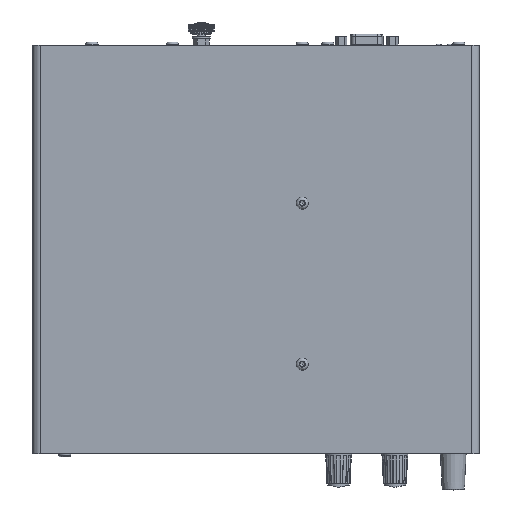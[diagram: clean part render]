
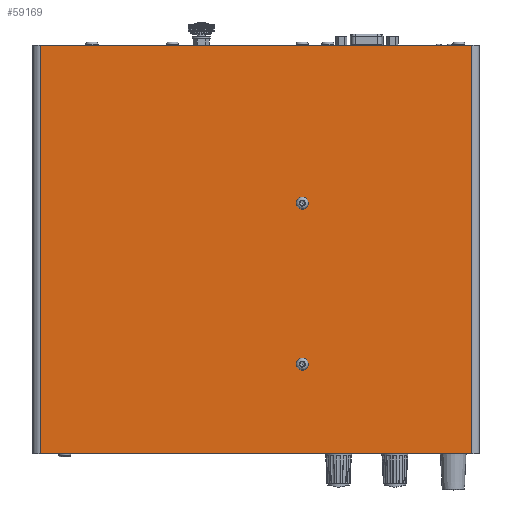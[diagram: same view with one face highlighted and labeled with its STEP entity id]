
A CAD part, top view. The second image highlights one B-rep face of the part: STEP entity #59169.
In plain terms, the highlighted planar face has unit normal (0, 0, 1).
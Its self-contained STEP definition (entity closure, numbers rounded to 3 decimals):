
#2767=FACE_BOUND('',#14330,.T.);
#2768=FACE_BOUND('',#14331,.T.);
#4322=PLANE('',#64133);
#10349=FACE_OUTER_BOUND('',#14329,.T.);
#14329=EDGE_LOOP('',(#51335,#51336,#51337,#51338));
#14330=EDGE_LOOP('',(#51339));
#14331=EDGE_LOOP('',(#51340));
#16988=CIRCLE('',#64134,3.);
#16989=CIRCLE('',#64135,3.);
#21008=LINE('',#101296,#25214);
#21013=LINE('',#101312,#25219);
#21014=LINE('',#101314,#25220);
#21015=LINE('',#101315,#25221);
#25214=VECTOR('',#77118,10.);
#25219=VECTOR('',#77131,10.);
#25220=VECTOR('',#77132,10.);
#25221=VECTOR('',#77133,10.);
#29995=VERTEX_POINT('',#101293);
#29996=VERTEX_POINT('',#101295);
#30003=VERTEX_POINT('',#101311);
#30004=VERTEX_POINT('',#101313);
#30005=VERTEX_POINT('',#101316);
#30006=VERTEX_POINT('',#101318);
#37365=EDGE_CURVE('',#29995,#29996,#21008,.T.);
#37373=EDGE_CURVE('',#30003,#29996,#21013,.T.);
#37374=EDGE_CURVE('',#29995,#30004,#21014,.T.);
#37375=EDGE_CURVE('',#30003,#30004,#21015,.T.);
#37376=EDGE_CURVE('',#30005,#30005,#16988,.T.);
#37377=EDGE_CURVE('',#30006,#30006,#16989,.T.);
#51335=ORIENTED_EDGE('',*,*,#37373,.T.);
#51336=ORIENTED_EDGE('',*,*,#37365,.F.);
#51337=ORIENTED_EDGE('',*,*,#37374,.T.);
#51338=ORIENTED_EDGE('',*,*,#37375,.F.);
#51339=ORIENTED_EDGE('',*,*,#37376,.T.);
#51340=ORIENTED_EDGE('',*,*,#37377,.T.);
#59169=ADVANCED_FACE('',(#10349,#2767,#2768),#4322,.T.);
#64133=AXIS2_PLACEMENT_3D('',#101310,#77129,#77130);
#64134=AXIS2_PLACEMENT_3D('',#101317,#77134,#77135);
#64135=AXIS2_PLACEMENT_3D('',#101319,#77136,#77137);
#77118=DIRECTION('',(1.,0.,0.));
#77129=DIRECTION('center_axis',(0.,0.,
1.));
#77130=DIRECTION('ref_axis',(1.,0.,0.));
#77131=DIRECTION('',(0.,1.,0.));
#77132=DIRECTION('',(0.,-1.,0.));
#77133=DIRECTION('',(-1.,0.,0.));
#77134=DIRECTION('center_axis',(0.,0.,
-1.));
#77135=DIRECTION('ref_axis',(-1.,0.,0.));
#77136=DIRECTION('center_axis',(0.,0.,
-1.));
#77137=DIRECTION('ref_axis',(-1.,0.,0.));
#101293=CARTESIAN_POINT('',(-107.,101.5,52.));
#101295=CARTESIAN_POINT('',(107.,101.5,52.));
#101296=CARTESIAN_POINT('',(-111.,101.5,52.));
#101310=CARTESIAN_POINT('Origin',(0.,0.,
52.));
#101311=CARTESIAN_POINT('',(107.,-101.5,52.));
#101312=CARTESIAN_POINT('',(107.,-50.75,52.));
#101313=CARTESIAN_POINT('',(-107.,-101.5,52.));
#101314=CARTESIAN_POINT('',(-107.,50.75,52.));
#101315=CARTESIAN_POINT('',(111.,-101.5,52.));
#101316=CARTESIAN_POINT('',(26.,23.,52.));
#101317=CARTESIAN_POINT('Origin',(23.,23.,52.));
#101318=CARTESIAN_POINT('',(26.,-57.,52.));
#101319=CARTESIAN_POINT('Origin',(23.,-57.,52.));
